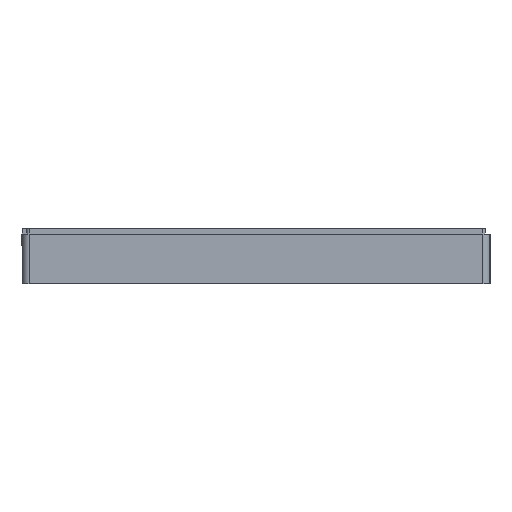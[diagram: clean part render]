
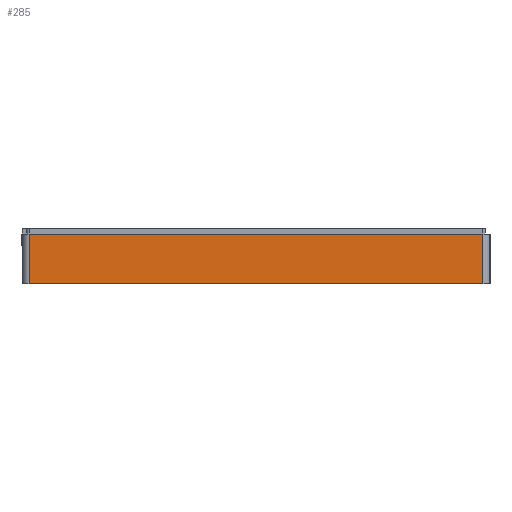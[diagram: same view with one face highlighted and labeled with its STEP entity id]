
A CAD part, left-side view. The second image highlights one B-rep face of the part: STEP entity #285.
In plain terms, the highlighted planar face has unit normal (-1, 0, 0).
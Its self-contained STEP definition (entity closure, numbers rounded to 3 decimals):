
#285=ADVANCED_FACE('',(#2105),#2107,.T.);
#2105=FACE_BOUND('',#2106,.T.);
#2106=EDGE_LOOP('',(#3613,#3614,#3615,#3616));
#2107=PLANE('',#2108);
#2108=AXIS2_PLACEMENT_3D('',#2109,#2110,#2111);
#2109=CARTESIAN_POINT('',(-110.,1.5,-1.));
#2110=DIRECTION('',(-1.,0.,0.));
#2111=DIRECTION('',(0.,-1.,0.));
#3613=ORIENTED_EDGE('',*,*,#4252,.T.);
#3614=ORIENTED_EDGE('',*,*,#4337,.F.);
#3615=ORIENTED_EDGE('',*,*,#4280,.F.);
#3616=ORIENTED_EDGE('',*,*,#4385,.T.);
#4252=EDGE_CURVE('',#4727,#4725,#4728,.T.);
#4280=EDGE_CURVE('',#4770,#4773,#4774,.T.);
#4337=EDGE_CURVE('',#4773,#4725,#4885,.T.);
#4385=EDGE_CURVE('',#4770,#4727,#4978,.T.);
#4725=VERTEX_POINT('',#5499);
#4727=VERTEX_POINT('',#5504);
#4728=LINE('',#5505,#5506);
#4770=VERTEX_POINT('',#5605);
#4773=VERTEX_POINT('',#5611);
#4774=LINE('',#5612,#5613);
#4885=LINE('',#5839,#5840);
#4978=LINE('',#6028,#6029);
#5499=CARTESIAN_POINT('',(-110.,0.5,6.9));
#5504=CARTESIAN_POINT('',(-110.,-62.5,6.9));
#5505=CARTESIAN_POINT('',(-110.,-62.5,6.9));
#5506=VECTOR('',#5507,1.);
#5507=DIRECTION('',(0.,1.,0.));
#5605=CARTESIAN_POINT('',(-110.,-62.5,0.));
#5611=CARTESIAN_POINT('',(-110.,0.5,0.));
#5612=CARTESIAN_POINT('',(-110.,-62.5,0.));
#5613=VECTOR('',#5614,1.);
#5614=DIRECTION('',(0.,1.,0.));
#5839=CARTESIAN_POINT('',(-110.,0.5,0.));
#5840=VECTOR('',#5841,1.);
#5841=DIRECTION('',(0.,0.,1.));
#6028=CARTESIAN_POINT('',(-110.,-62.5,0.));
#6029=VECTOR('',#6030,1.);
#6030=DIRECTION('',(0.,0.,1.));
